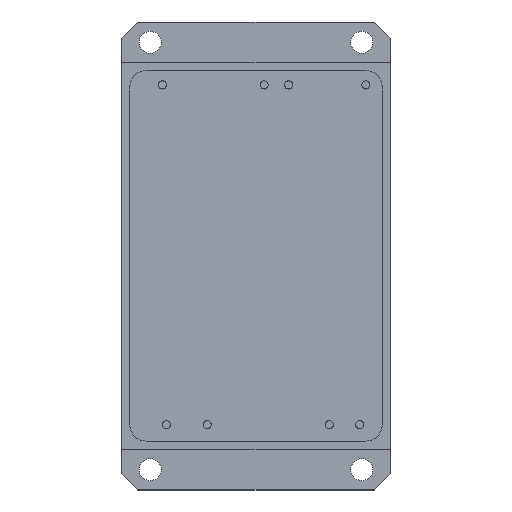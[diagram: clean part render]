
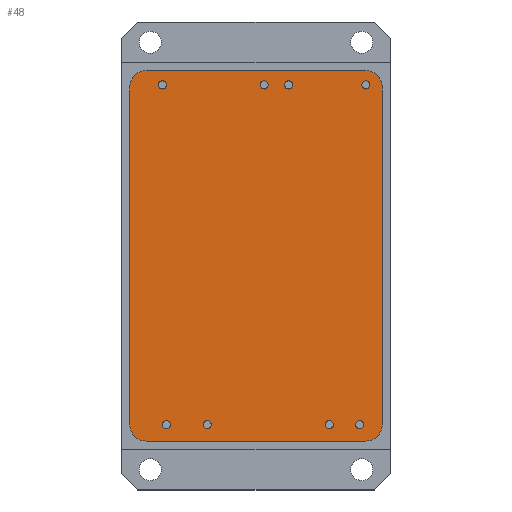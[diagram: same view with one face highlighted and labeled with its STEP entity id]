
A CAD part, top view. The second image highlights one B-rep face of the part: STEP entity #48.
In plain terms, the highlighted planar face has unit normal (0, 0, 1).
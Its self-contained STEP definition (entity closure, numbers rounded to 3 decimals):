
#48=ADVANCED_FACE('',(#91,#93,#95,#97,#99,#101,#103,#105,#107),#109,.T.);
#91=FACE_BOUND('',#92,.T.);
#92=EDGE_LOOP('',(#450,#451,#452,#453,#454,#455,#456,#457));
#93=FACE_BOUND('',#94,.T.);
#94=EDGE_LOOP('',(#458));
#95=FACE_BOUND('',#96,.T.);
#96=EDGE_LOOP('',(#459));
#97=FACE_BOUND('',#98,.T.);
#98=EDGE_LOOP('',(#460));
#99=FACE_BOUND('',#100,.T.);
#100=EDGE_LOOP('',(#461));
#101=FACE_BOUND('',#102,.T.);
#102=EDGE_LOOP('',(#462));
#103=FACE_BOUND('',#104,.T.);
#104=EDGE_LOOP('',(#463));
#105=FACE_BOUND('',#106,.T.);
#106=EDGE_LOOP('',(#464));
#107=FACE_BOUND('',#108,.T.);
#108=EDGE_LOOP('',(#465));
#109=PLANE('',#110);
#110=AXIS2_PLACEMENT_3D('',#111,#112,#113);
#111=CARTESIAN_POINT('',(0.,0.,10.05));
#112=DIRECTION('',(0.,0.,1.));
#113=DIRECTION('',(0.,1.,0.));
#450=ORIENTED_EDGE('',*,*,#618,.T.);
#451=ORIENTED_EDGE('',*,*,#619,.T.);
#452=ORIENTED_EDGE('',*,*,#620,.T.);
#453=ORIENTED_EDGE('',*,*,#621,.T.);
#454=ORIENTED_EDGE('',*,*,#622,.T.);
#455=ORIENTED_EDGE('',*,*,#623,.T.);
#456=ORIENTED_EDGE('',*,*,#624,.T.);
#457=ORIENTED_EDGE('',*,*,#625,.T.);
#458=ORIENTED_EDGE('',*,*,#626,.F.);
#459=ORIENTED_EDGE('',*,*,#627,.F.);
#460=ORIENTED_EDGE('',*,*,#628,.F.);
#461=ORIENTED_EDGE('',*,*,#629,.F.);
#462=ORIENTED_EDGE('',*,*,#630,.F.);
#463=ORIENTED_EDGE('',*,*,#631,.F.);
#464=ORIENTED_EDGE('',*,*,#632,.F.);
#465=ORIENTED_EDGE('',*,*,#633,.F.);
#618=EDGE_CURVE('',#702,#703,#704,.T.);
#619=EDGE_CURVE('',#703,#705,#706,.T.);
#620=EDGE_CURVE('',#705,#707,#708,.T.);
#621=EDGE_CURVE('',#707,#709,#710,.T.);
#622=EDGE_CURVE('',#709,#711,#712,.T.);
#623=EDGE_CURVE('',#711,#713,#714,.T.);
#624=EDGE_CURVE('',#713,#715,#716,.T.);
#625=EDGE_CURVE('',#715,#702,#717,.T.);
#626=EDGE_CURVE('',#718,#718,#719,.T.);
#627=EDGE_CURVE('',#720,#720,#721,.T.);
#628=EDGE_CURVE('',#722,#722,#723,.T.);
#629=EDGE_CURVE('',#724,#724,#725,.T.);
#630=EDGE_CURVE('',#726,#726,#727,.T.);
#631=EDGE_CURVE('',#728,#728,#729,.T.);
#632=EDGE_CURVE('',#730,#730,#731,.T.);
#633=EDGE_CURVE('',#732,#732,#733,.T.);
#702=VERTEX_POINT('',#850);
#703=VERTEX_POINT('',#851);
#704=LINE('',#852,#853);
#705=VERTEX_POINT('',#855);
#706=CIRCLE('',#856,2.);
#707=VERTEX_POINT('',#860);
#708=LINE('',#861,#862);
#709=VERTEX_POINT('',#864);
#710=CIRCLE('',#865,2.);
#711=VERTEX_POINT('',#869);
#712=LINE('',#870,#871);
#713=VERTEX_POINT('',#873);
#714=CIRCLE('',#874,2.);
#715=VERTEX_POINT('',#878);
#716=LINE('',#879,#880);
#717=CIRCLE('',#882,2.);
#718=VERTEX_POINT('',#886);
#719=CIRCLE('',#887,0.5);
#720=VERTEX_POINT('',#891);
#721=CIRCLE('',#892,0.5);
#722=VERTEX_POINT('',#896);
#723=CIRCLE('',#897,0.5);
#724=VERTEX_POINT('',#901);
#725=CIRCLE('',#902,0.5);
#726=VERTEX_POINT('',#906);
#727=CIRCLE('',#907,0.5);
#728=VERTEX_POINT('',#911);
#729=CIRCLE('',#912,0.5);
#730=VERTEX_POINT('',#916);
#731=CIRCLE('',#917,0.5);
#732=VERTEX_POINT('',#921);
#733=CIRCLE('',#922,0.5);
#850=CARTESIAN_POINT('',(-15.5,20.75,10.05));
#851=CARTESIAN_POINT('',(-15.5,-20.75,10.05));
#852=CARTESIAN_POINT('',(-15.5,20.75,10.05));
#853=VECTOR('',#854,1.);
#854=DIRECTION('',(0.,-1.,0.));
#855=CARTESIAN_POINT('',(-13.5,-22.75,10.05));
#856=AXIS2_PLACEMENT_3D('',#857,#858,#859);
#857=CARTESIAN_POINT('',(-13.5,-20.75,10.05));
#858=DIRECTION('',(0.,0.,1.));
#859=DIRECTION('',(-1.,0.,0.));
#860=CARTESIAN_POINT('',(13.5,-22.75,10.05));
#861=CARTESIAN_POINT('',(-13.5,-22.75,10.05));
#862=VECTOR('',#863,1.);
#863=DIRECTION('',(1.,0.,0.));
#864=CARTESIAN_POINT('',(15.5,-20.75,10.05));
#865=AXIS2_PLACEMENT_3D('',#866,#867,#868);
#866=CARTESIAN_POINT('',(13.5,-20.75,10.05));
#867=DIRECTION('',(0.,0.,1.));
#868=DIRECTION('',(0.,-1.,0.));
#869=CARTESIAN_POINT('',(15.5,20.75,10.05));
#870=CARTESIAN_POINT('',(15.5,-20.75,10.05));
#871=VECTOR('',#872,1.);
#872=DIRECTION('',(0.,1.,0.));
#873=CARTESIAN_POINT('',(13.5,22.75,10.05));
#874=AXIS2_PLACEMENT_3D('',#875,#876,#877);
#875=CARTESIAN_POINT('',(13.5,20.75,10.05));
#876=DIRECTION('',(0.,0.,1.));
#877=DIRECTION('',(1.,0.,0.));
#878=CARTESIAN_POINT('',(-13.5,22.75,10.05));
#879=CARTESIAN_POINT('',(13.5,22.75,10.05));
#880=VECTOR('',#881,1.);
#881=DIRECTION('',(-1.,0.,0.));
#882=AXIS2_PLACEMENT_3D('',#883,#884,#885);
#883=CARTESIAN_POINT('',(-13.5,20.75,10.05));
#884=DIRECTION('',(0.,0.,1.));
#885=DIRECTION('',(0.,1.,0.));
#886=CARTESIAN_POINT('',(9.,-20.25,10.05));
#887=AXIS2_PLACEMENT_3D('',#888,#889,#890);
#888=CARTESIAN_POINT('',(9.,-20.75,10.05));
#889=DIRECTION('',(0.,0.,1.));
#890=DIRECTION('',(0.,1.,0.));
#891=CARTESIAN_POINT('',(-6.,-20.25,10.05));
#892=AXIS2_PLACEMENT_3D('',#893,#894,#895);
#893=CARTESIAN_POINT('',(-6.,-20.75,10.05));
#894=DIRECTION('',(0.,0.,1.));
#895=DIRECTION('',(0.,1.,0.));
#896=CARTESIAN_POINT('',(-11.,-20.25,10.05));
#897=AXIS2_PLACEMENT_3D('',#898,#899,#900);
#898=CARTESIAN_POINT('',(-11.,-20.75,10.05));
#899=DIRECTION('',(0.,0.,1.));
#900=DIRECTION('',(0.,1.,0.));
#901=CARTESIAN_POINT('',(13.5,21.5,10.05));
#902=AXIS2_PLACEMENT_3D('',#903,#904,#905);
#903=CARTESIAN_POINT('',(13.5,21.,10.05));
#904=DIRECTION('',(0.,0.,1.));
#905=DIRECTION('',(0.,1.,0.));
#906=CARTESIAN_POINT('',(4.,21.5,10.05));
#907=AXIS2_PLACEMENT_3D('',#908,#909,#910);
#908=CARTESIAN_POINT('',(4.,21.,10.05));
#909=DIRECTION('',(0.,0.,1.));
#910=DIRECTION('',(0.,1.,0.));
#911=CARTESIAN_POINT('',(-11.5,21.5,10.05));
#912=AXIS2_PLACEMENT_3D('',#913,#914,#915);
#913=CARTESIAN_POINT('',(-11.5,21.,10.05));
#914=DIRECTION('',(0.,0.,1.));
#915=DIRECTION('',(0.,1.,0.));
#916=CARTESIAN_POINT('',(12.75,-20.25,10.05));
#917=AXIS2_PLACEMENT_3D('',#918,#919,#920);
#918=CARTESIAN_POINT('',(12.75,-20.75,10.05));
#919=DIRECTION('',(0.,0.,1.));
#920=DIRECTION('',(0.,1.,0.));
#921=CARTESIAN_POINT('',(1.,21.5,10.05));
#922=AXIS2_PLACEMENT_3D('',#923,#924,#925);
#923=CARTESIAN_POINT('',(1.,21.,10.05));
#924=DIRECTION('',(0.,0.,1.));
#925=DIRECTION('',(0.,1.,0.));
